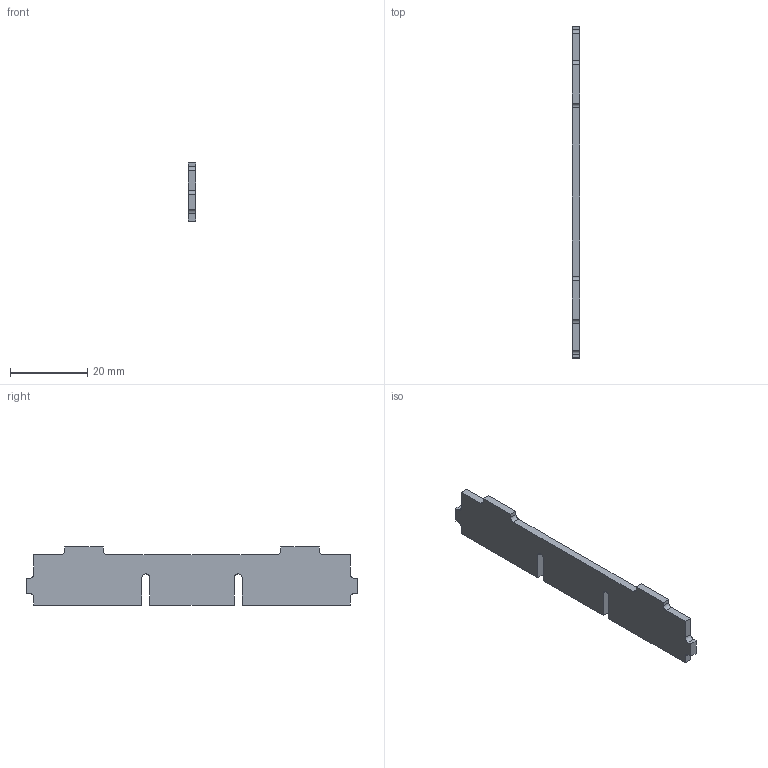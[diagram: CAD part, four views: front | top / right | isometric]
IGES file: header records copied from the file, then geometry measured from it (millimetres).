
Start section: START RECORD GO HERE.
Global section: file name: FR_10001_5 (Frame Brake).igs; native system: IBM CATIA IGES - CATIA Version 5 Release 19 ; preprocessor: CATIA Version 5 Release 19 ; author: jacqu; organization: ASUS-TUF-JACQUE; date: 20200226.092151; units: millimetre
Bounding box: 2 x 86 x 15.1 mm (x, y, z)
Surface area: 2667.8 mm2 (no closed solid volume)
Topology: 0 solids, 0 shells, 38 faces, 232 edges, 232 vertices
Faces by surface type: plane 28, revolution 10
